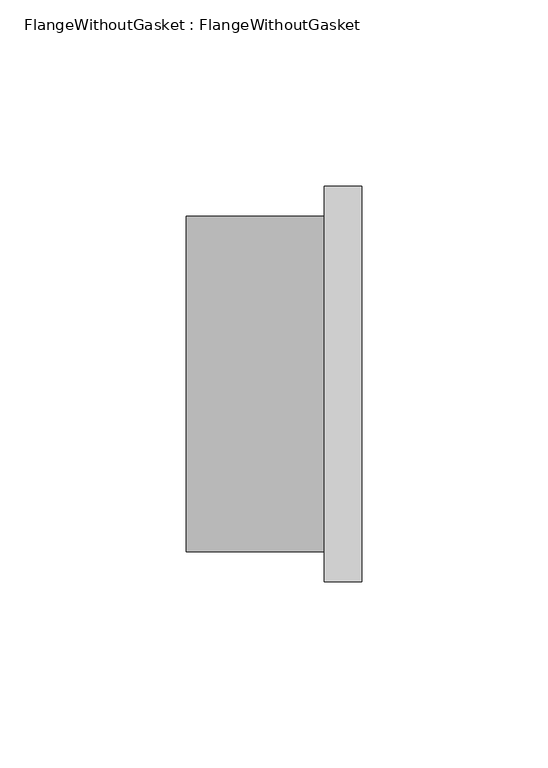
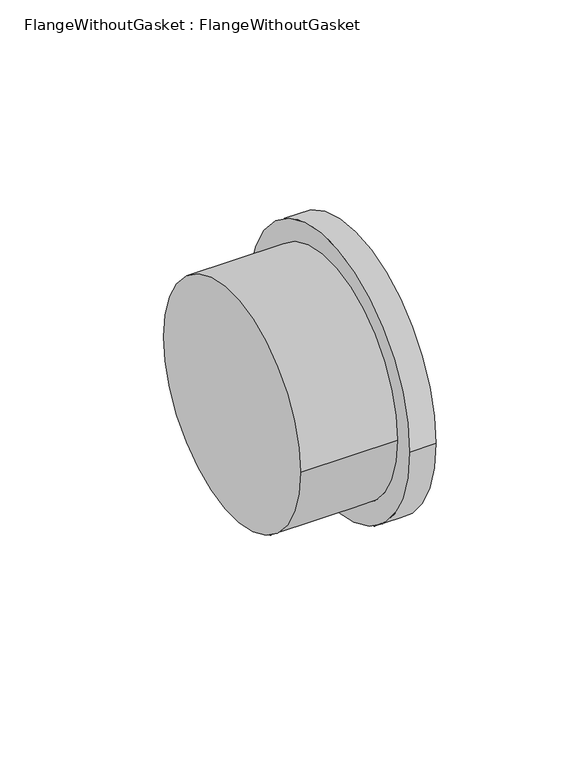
"""IFC4 building model written with IfcOpenShell, lengths in millimetres: pipe fitting geometry, FlangeWithoutGasket : FlangeWithoutGasket."""

from ifc_helpers import new_model, si_unit, frame, origin, place, context, project, spatial, circle_curve, source, transform, mapped, element, save
from ifc_brep_helpers import plane_surface, cylinder_surface, advanced_brep


def flangewithoutgasket_flangewithoutgasket_49f34aa9(model_context):
    return source(origin(), model_context, "Body", "AdvancedBrep", [
        advanced_brep(
        [(23.5, 53.0, 0.0), (23.5, -53.0, 0.0), (13.5, 53.0, 0.0), (13.5, -53.0, 0.0), (13.5, 45.0, 0.0), (13.5, -45.0, 0.0), (-23.5, -45.0, 0.0), (-23.5, 45.0, 0.0)],
        [
            (0, 1, circle_curve(frame((23.5, 0.0, 0.0), z_axis=(1.0, 0.0, 0.0), x_axis=(0.0, -1.0, 0.0)), 53.0)),
            (1, 0, circle_curve(frame((23.5, 0.0, 0.0), z_axis=(1.0, 0.0, 0.0), x_axis=(0.0, -1.0, 0.0)), 53.0)),
            (2, 3, circle_curve(frame((13.5, 0.0, 0.0), z_axis=(-1.0, 0.0, 0.0), x_axis=(0.0, -1.0, 0.0)), 53.0)),
            (3, 2, circle_curve(frame((13.5, 0.0, 0.0), z_axis=(-1.0, 0.0, 0.0), x_axis=(0.0, -1.0, 0.0)), 53.0)),
            (4, 5, circle_curve(frame((13.5, 0.0, 0.0), z_axis=(1.0, 0.0, 0.0), x_axis=(0.0, 1.0, 0.0)), 45.0)),
            (5, 4, circle_curve(frame((13.5, 0.0, 0.0), z_axis=(1.0, 0.0, 0.0), x_axis=(0.0, 1.0, 0.0)), 45.0)),
            (0, 2),
            (3, 1),
            (6, 7, circle_curve(frame((-23.5, 0.0, 0.0), z_axis=(-1.0, 0.0, 0.0), x_axis=(0.0, 1.0, 0.0)), 45.0)),
            (7, 6, circle_curve(frame((-23.5, 0.0, 0.0), z_axis=(-1.0, 0.0, 0.0), x_axis=(0.0, 1.0, 0.0)), 45.0)),
            (6, 5),
            (4, 7),
        ],
        [
            plane_surface(frame((23.5, 0.0, 0.0), z_axis=(1.0, 0.0, 0.0), x_axis=(0.0, 0.0, 1.0))),
            plane_surface(frame((13.5, 0.0, 0.0), z_axis=(-1.0, 0.0, 0.0), x_axis=(0.0, 0.0, 1.0))),
            cylinder_surface(frame((23.5, 0.0, 0.0), z_axis=(1.0, 0.0, 0.0), x_axis=(0.0, -1.0, 0.0)), 53.0),
            plane_surface(frame((-23.5, 0.0, 0.0), z_axis=(-1.0, 0.0, 0.0), x_axis=(0.0, 0.0, 1.0))),
            cylinder_surface(frame((-23.5, 0.0, 0.0), z_axis=(-1.0, 0.0, 0.0), x_axis=(0.0, 1.0, 0.0)), 45.0),
        ],
        [
            (0, [[1, 2]]),
            (1, [[3, 4], [5, 6]]),
            (2, [[-1, 7, -4, 8]]),
            (2, [[-2, -8, -3, -7]]),
            (3, [[9, 10]]),
            (4, [[-9, 11, -5, 12]]),
            (4, [[-10, -12, -6, -11]]),
        ],
    ),
    ])


if __name__ == "__main__":
    model = new_model("IFC4")
    model_context = context("Model", 3, world=origin())
    ifc_project = project(units=[si_unit("LENGTHUNIT", "METRE", prefix="MILLI")], contexts=[model_context])
    site = spatial("IfcSite", under=ifc_project)
    building = spatial("IfcBuilding", under=site)
    placement = place(None, origin())
    flangewithoutgasket_flangewithoutgasket_shape = flangewithoutgasket_flangewithoutgasket_49f34aa9(model_context)
    element("IfcPipeFitting", 1, ObjectType="FlangeWithoutGasket : FlangeWithoutGasket", at=placement, inside=building, context=model_context, shape_type="MappedRepresentation", body=[
        mapped(flangewithoutgasket_flangewithoutgasket_shape, transform((0.0, 0.0, 0.0), x_axis=(1.0, 0.0, 0.0), y_axis=(0.0, 1.0, 0.0), z_axis=(0.0, 0.0, 1.0))),
    ])
    save(model, "model.ifc")
